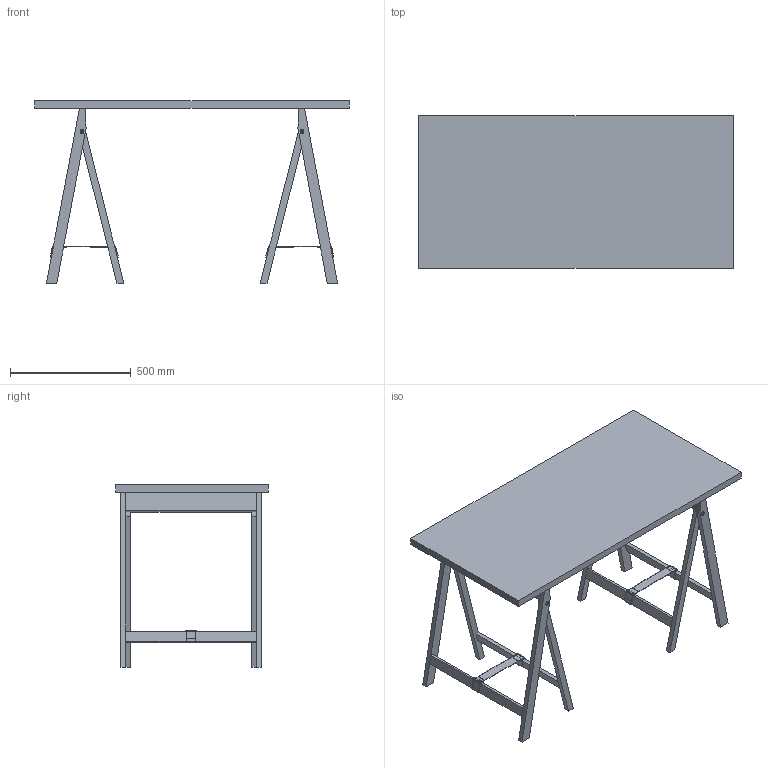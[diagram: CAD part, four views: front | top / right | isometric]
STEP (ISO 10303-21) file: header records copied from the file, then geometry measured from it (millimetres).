
FILE_DESCRIPTION(/* description */ (''),/* implementation_level */ '2;1');
FILE_NAME(/* name */ 'FRAMA_Folding Flat Trestle Table-3D',/* time_stamp */ '2026-03-26T13:02:12+01:00',/* author */ (''),/* organization */ (''),/* preprocessor_version */ 'ST-DEVELOPER v16.5',/* originating_system */ 'Rhino 7.38',/* authorisation */ '');
FILE_SCHEMA (('CONFIG_CONTROL_DESIGN'));
Length unit declared in the file: millimetre
Products named in the file (1): Document
Bounding box: 1300 x 630 x 753.61 mm (x, y, z)
Volume: 32479003.8 mm3; surface area: 2983617.1 mm2
Topology: 33 solids, 33 shells, 478 faces, 1094 edges, 700 vertices
Faces by surface type: plane 274, cylinder 136, bspline 68
Entity records: 15153 total; most frequent: CARTESIAN_POINT 7785, ORIENTED_EDGE 2184, EDGE_CURVE 1092, VERTEX_POINT 696, EDGE_LOOP 534, ADVANCED_FACE 478, FACE_OUTER_BOUND 478, B_SPLINE_CURVE_WITH_KNOTS 458
